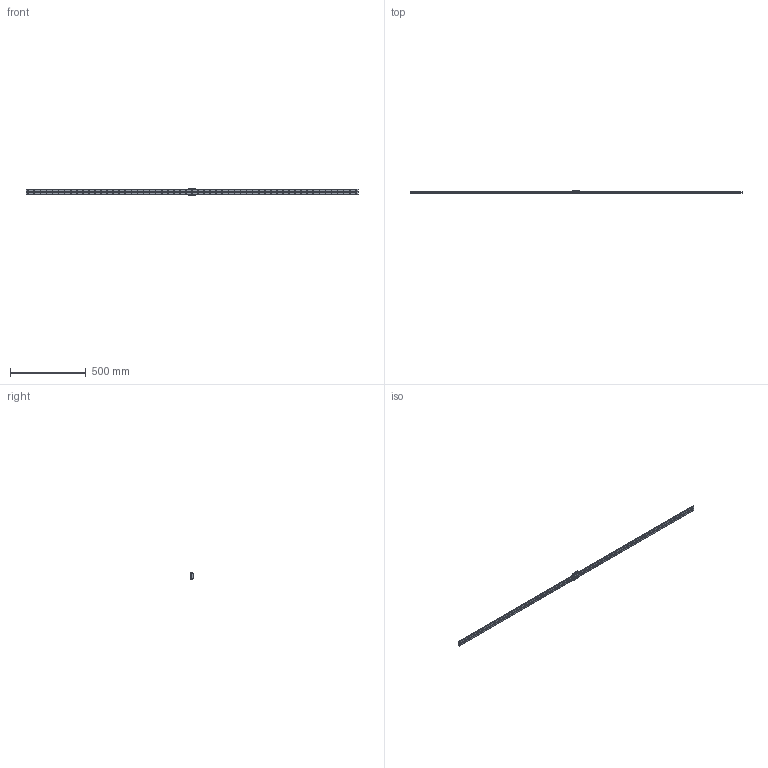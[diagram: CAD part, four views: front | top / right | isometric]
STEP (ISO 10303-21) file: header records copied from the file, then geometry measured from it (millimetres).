
FILE_DESCRIPTION(/* description */ ('STEP AP214'),/* implementation_level */ '2;1');
FILE_NAME(/* name */ 'HRW17CR1M-2190LTM_G15_0_PB107_1070-4_0_0_0_1',/* time_stamp */ '2023-09-26T15:14:42+02:00',/* author */ ('License CC BY-ND 4.0'),/* organization */ ('CADENAS'),/* preprocessor_version */ 'ST-DEVELOPER v19.3',/* originating_system */ 'PARTsolutions',/* authorisation */ ' ');
FILE_SCHEMA (('AUTOMOTIVE_DESIGN {1 0 10303 214 3 1 1}'));
Length unit declared in the file: millimetre
Products named in the file (4): HRW17CR1M-2190LTM_G15_0_PB107_1070-4_0_0_0_1; HRW-PB107_grease_nipple_joint; HRW17CRPB1071 Slide17-60; HRW17CR219015 Track
Assembly tree (3 placements, depth 2):
  HRW17CR1M-2190LTM_G15_0_PB107_1070-4_0_0_0_1
    HRW-PB107_grease_nipple_joint
    HRW17CRPB1071 Slide17-60
    HRW17CR219015 Track
Bounding box: 2190 x 17 x 50 mm (x, y, z)
Volume: 591107.5 mm3; surface area: 214938.6 mm2
Topology: 3 solids, 3 shells, 479 faces, 1060 edges, 704 vertices
Faces by surface type: cylinder 237, plane 229, cone 8, torus 4, sphere 1
Full cylindrical faces by diameter (mm): 3 x3, 3.242 x4, 3.5 x1, 4.5 x111, 7.5 x110
Entity records: 12689 total; most frequent: DIRECTION 2264, CARTESIAN_POINT 1997, ORIENTED_EDGE 1624, FACE_BOUND 1062, EDGE_LOOP 1058, AXIS2_PLACEMENT_3D 969, EDGE_CURVE 812, VERTEX_POINT 702
